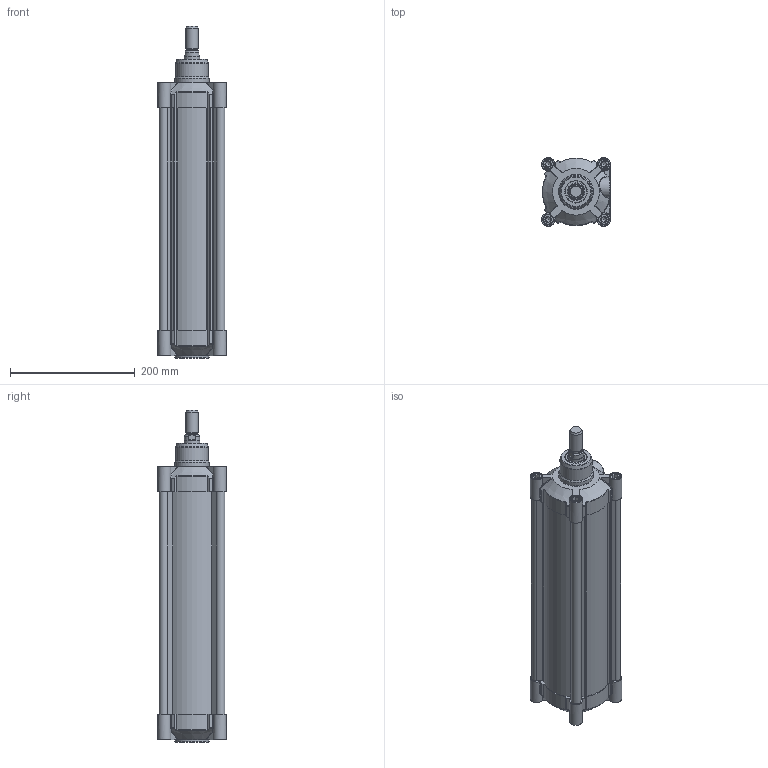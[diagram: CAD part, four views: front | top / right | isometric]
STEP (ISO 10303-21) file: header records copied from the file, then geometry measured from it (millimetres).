
FILE_DESCRIPTION(/* description */ (''),/* implementation_level */ '2;1');
FILE_NAME(/* name */ 'T:\Archivio Inventor\- 00 NUOVI STP PER SITO CON STELO CHE SI MUOVE\SERIE H - U\SERIE HDM\HDM100 - TUBO NUOVO\HDM100.300.GS.M.stp',/* time_stamp */ '2018-08-02T09:32:28+02:00',/* author */ ('carlo.corazza'),/* organization */ (''),/* preprocessor_version */ 'ST-DEVELOPER v16.5',/* originating_system */ 'Autodesk Inventor 2017',/* authorisation */ '');
FILE_SCHEMA (('AUTOMOTIVE_DESIGN { 1 0 10303 214 3 1 1 }'));
Length unit declared in the file: millimetre
Products named in the file (5): HDM100.300.GS.M; TP; TA; STELO-300; CORPO-300
Assembly tree (4 placements, depth 2):
  HDM100.300.GS.M
    TP
    TA
    STELO-300
    CORPO-300
Bounding box: 110 x 110 x 533 mm (x, y, z)
Volume: 1393493 mm3; surface area: 596329.4 mm2
Topology: 4 solids, 29 shells, 1355 faces, 3135 edges, 1912 vertices
Faces by surface type: plane 408, cylinder 313, bspline 270, torus 126, cone 122, sphere 116
Full cylindrical faces by diameter (mm): 5 x2, 5.9 x2, 6.5 x2, 7.25 x2, 8.376 x8, 9.4 x4, 10 x8, 10.3 x8, 11.8 x4, 11.9 x2, 12 x4, 16 x9, 16.3 x8, 17 x2, 17.5 x1, 18.631 x2, 20 x1, 24.5 x1, 25 x1, 25.8 x1, 25.962 x1, 30 x1, 31.5 x2, 35 x3, 52 x1, 55 x2, 100 x1
Entity records: 43668 total; most frequent: CARTESIAN_POINT 13702, ORIENTED_EDGE 5710, DIRECTION 5644, EDGE_CURVE 2855, AXIS2_PLACEMENT_3D 2293, VERTEX_POINT 1857, EDGE_LOOP 1690, STYLED_ITEM 1359
